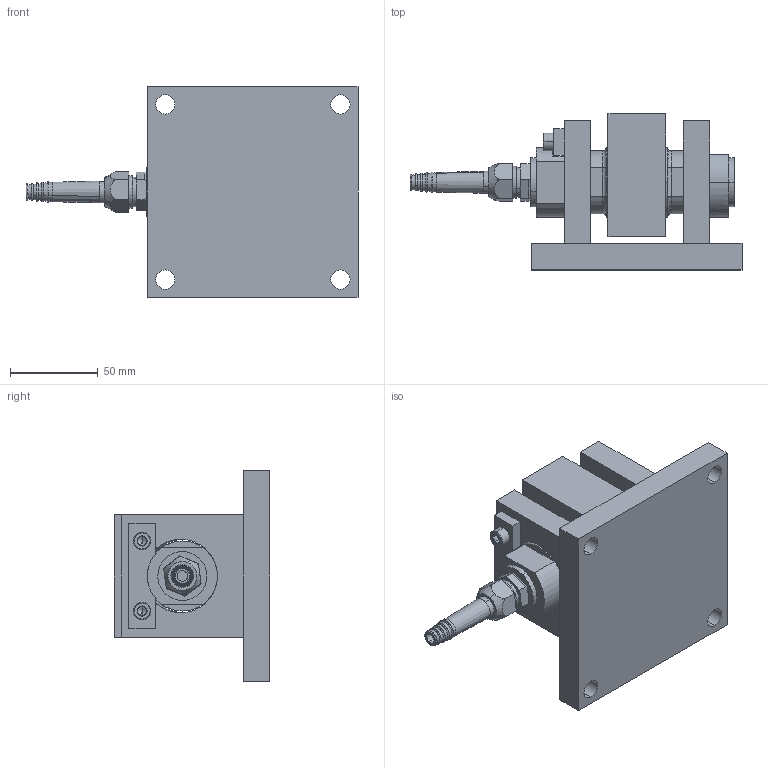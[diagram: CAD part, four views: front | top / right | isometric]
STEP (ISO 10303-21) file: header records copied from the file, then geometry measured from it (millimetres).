
FILE_DESCRIPTION (( 'STEP AP214' ), '1' );
FILE_NAME ('KOM-1 10-50 kN Module.STEP', '2021-03-15T09:58:28', ( '' ), ( '' ), 'SwSTEP 2.0', 'SolidWorks 2021', '' );
FILE_SCHEMA (( 'AUTOMOTIVE_DESIGN' ));
Length unit declared in the file: millimetre
Products named in the file (10): 5207870r2 Fäste KOM-1 10-50 kN_Default<As Machined>; 6408213r1  Låsbleck KOM-1 10-100 kN; KOSD-40  50 kN; M6x16 Insex; Pg9 - 1009.52 6_2_14; KOM-1 10-50 kN Module; 4095957r4; 5207871r1  Ok KOM-1  10-50 kN; M26x1.5 - Lock - 600490r1; M26x1.5 - Pg9 - 6369829
Assembly tree (10 placements, depth 3):
  KOM-1 10-50 kN Module
    5207870r2 Fäste KOM-1 10-50 kN_Default<As Machined>
    5207871r1  Ok KOM-1  10-50 kN
    KOSD-40  50 kN
      4095957r4
      M26x1.5 - Pg9 - 6369829
      Pg9 - 1009.52 6_2_14
      M26x1.5 - Lock - 600490r1
    6408213r1  Låsbleck KOM-1 10-100 kN
    M6x16 Insex  x2
Bounding box: 189.5 x 89 x 120 mm (x, y, z)
Volume: 573831.9 mm3; surface area: 115955.8 mm2
Topology: 9 solids, 12 shells, 340 faces, 766 edges, 463 vertices
Faces by surface type: plane 121, cylinder 110, cone 71, bspline 20, torus 18
Entity records: 14013 total; most frequent: CARTESIAN_POINT 6180, DIRECTION 1471, ORIENTED_EDGE 1406, EDGE_CURVE 703, AXIS2_PLACEMENT_3D 602, VERTEX_POINT 436, EDGE_LOOP 363, FACE_OUTER_BOUND 310
